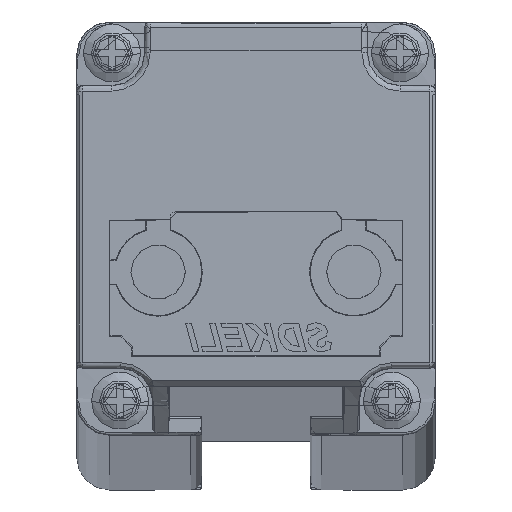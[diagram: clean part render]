
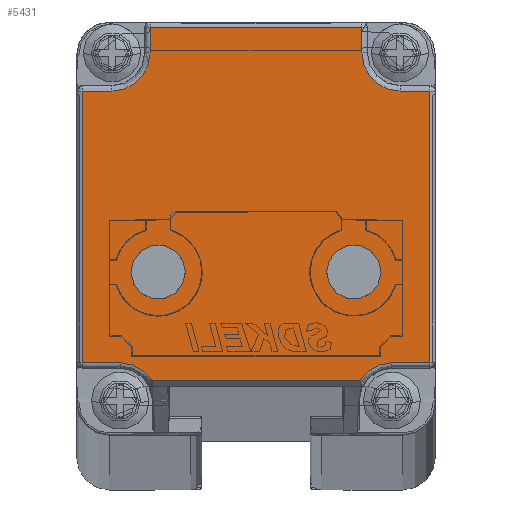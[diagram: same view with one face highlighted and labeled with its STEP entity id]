
A CAD part, top view. The second image highlights one B-rep face of the part: STEP entity #5431.
In plain terms, the highlighted planar face has unit normal (0, 0, 1).
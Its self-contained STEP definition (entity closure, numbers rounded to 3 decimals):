
#2483=CARTESIAN_POINT('',(4.,3.152,970.));
#2484=DIRECTION('',(0.,0.,1.));
#2485=DIRECTION('',(0.849,0.528,0.));
#2486=AXIS2_PLACEMENT_3D('',#2483,#2484,#2485);
#2488=CARTESIAN_POINT('',(3.25,35.15,970.));
#2489=DIRECTION('',(0.,0.,1.));
#2490=DIRECTION('',(0.,-1.,0.));
#2491=AXIS2_PLACEMENT_3D('',#2488,#2489,#2490);
#2493=CARTESIAN_POINT('',(29.75,35.15,970.));
#2494=DIRECTION('',(0.,0.,1.));
#2495=DIRECTION('',(-1.,0.,0.));
#2496=AXIS2_PLACEMENT_3D('',#2493,#2494,#2495);
#2498=CARTESIAN_POINT('',(29.,3.152,970.));
#2499=DIRECTION('',(0.,0.,1.));
#2500=DIRECTION('',(0.,1.,0.));
#2501=AXIS2_PLACEMENT_3D('',#2498,#2499,#2500);
#2503=CARTESIAN_POINT('',(7.5,15.002,970.));
#2504=DIRECTION('',(0.,0.,1.));
#2505=DIRECTION('',(1.,0.007,0.));
#2506=AXIS2_PLACEMENT_3D('',#2503,#2504,#2505);
#2508=CARTESIAN_POINT('',(7.5,15.002,970.));
#2509=DIRECTION('',(0.,0.,1.));
#2510=DIRECTION('',(-1.,-0.007,0.));
#2511=AXIS2_PLACEMENT_3D('',#2508,#2509,#2510);
#2513=CARTESIAN_POINT('',(25.5,15.,970.));
#2514=DIRECTION('',(0.,0.,1.));
#2515=DIRECTION('',(1.,-0.007,0.));
#2516=AXIS2_PLACEMENT_3D('',#2513,#2514,#2515);
#2518=CARTESIAN_POINT('',(25.5,15.,970.));
#2519=DIRECTION('',(0.,0.,1.));
#2520=DIRECTION('',(-1.,0.007,0.));
#2521=AXIS2_PLACEMENT_3D('',#2518,#2519,#2520);
#2551=DIRECTION('',(1.,-0.001,0.));
#2552=VECTOR('',#2551,19.056);
#2553=CARTESIAN_POINT('',(6.972,5.,970.));
#2554=LINE('',#2553,#2552);
#3086=DIRECTION('',(1.,0.,0.));
#3087=VECTOR('',#3086,3.5);
#3088=CARTESIAN_POINT('',(29.,6.652,970.));
#3089=LINE('',#3088,#3087);
#3113=DIRECTION('',(0.,1.,0.));
#3114=VECTOR('',#3113,24.998);
#3115=CARTESIAN_POINT('',(32.5,6.652,970.));
#3116=LINE('',#3115,#3114);
#3137=DIRECTION('',(-1.,0.,0.));
#3138=VECTOR('',#3137,2.75);
#3139=CARTESIAN_POINT('',(32.5,31.65,970.));
#3140=LINE('',#3139,#3138);
#3164=DIRECTION('',(0.,1.,0.));
#3165=VECTOR('',#3164,2.35);
#3166=CARTESIAN_POINT('',(26.25,35.15,970.));
#3167=LINE('',#3166,#3165);
#3203=DIRECTION('',(-1.,0.,0.));
#3204=VECTOR('',#3203,19.5);
#3205=CARTESIAN_POINT('',(26.25,37.5,970.));
#3206=LINE('',#3205,#3204);
#3227=DIRECTION('',(0.,-1.,0.));
#3228=VECTOR('',#3227,2.35);
#3229=CARTESIAN_POINT('',(6.75,37.5,970.));
#3230=LINE('',#3229,#3228);
#3254=DIRECTION('',(-1.,0.,0.));
#3255=VECTOR('',#3254,2.75);
#3256=CARTESIAN_POINT('',(3.25,31.65,970.));
#3257=LINE('',#3256,#3255);
#3327=DIRECTION('',(0.,-1.,0.));
#3328=VECTOR('',#3327,24.998);
#3329=CARTESIAN_POINT('',(0.5,31.65,970.));
#3330=LINE('',#3329,#3328);
#3370=DIRECTION('',(1.,0.,0.));
#3371=VECTOR('',#3370,3.5);
#3372=CARTESIAN_POINT('',(0.5,6.652,970.));
#3373=LINE('',#3372,#3371);
#4777=CARTESIAN_POINT('',(10.,15.018,970.));
#4778=VERTEX_POINT('',#4777);
#4779=CARTESIAN_POINT('',(5.,14.986,970.));
#4780=VERTEX_POINT('',#4779);
#4781=CARTESIAN_POINT('',(6.972,5.,970.));
#4782=CARTESIAN_POINT('',(4.,6.652,970.));
#4783=VERTEX_POINT('',#4781);
#4784=VERTEX_POINT('',#4782);
#4785=CARTESIAN_POINT('',(0.5,6.652,970.));
#4786=VERTEX_POINT('',#4785);
#4787=CARTESIAN_POINT('',(0.5,31.65,970.));
#4788=VERTEX_POINT('',#4787);
#4789=CARTESIAN_POINT('',(3.25,31.65,970.));
#4790=VERTEX_POINT('',#4789);
#4791=CARTESIAN_POINT('',(6.75,35.15,970.));
#4792=VERTEX_POINT('',#4791);
#4793=CARTESIAN_POINT('',(6.75,37.5,970.));
#4794=VERTEX_POINT('',#4793);
#4795=CARTESIAN_POINT('',(26.25,37.5,970.));
#4796=VERTEX_POINT('',#4795);
#4797=CARTESIAN_POINT('',(26.25,35.15,970.));
#4798=VERTEX_POINT('',#4797);
#4799=CARTESIAN_POINT('',(29.75,31.65,970.));
#4800=VERTEX_POINT('',#4799);
#4801=CARTESIAN_POINT('',(32.5,31.65,970.));
#4802=VERTEX_POINT('',#4801);
#4803=CARTESIAN_POINT('',(32.5,6.652,970.));
#4804=VERTEX_POINT('',#4803);
#4805=CARTESIAN_POINT('',(29.,6.652,970.));
#4806=VERTEX_POINT('',#4805);
#4807=CARTESIAN_POINT('',(26.028,5.,970.));
#4808=VERTEX_POINT('',#4807);
#4809=CARTESIAN_POINT('',(28.,14.984,970.));
#4810=CARTESIAN_POINT('',(23.,15.017,970.));
#4811=VERTEX_POINT('',#4809);
#4812=VERTEX_POINT('',#4810);
#5386=CARTESIAN_POINT('',(16.5,24.,970.));
#5387=DIRECTION('',(0.,0.,1.));
#5388=DIRECTION('',(1.,0.,0.));
#5389=AXIS2_PLACEMENT_3D('',#5386,#5387,#5388);
#5390=PLANE('',#5389);
#5392=ORIENTED_EDGE('',*,*,#5391,.T.);
#5394=ORIENTED_EDGE('',*,*,#5393,.F.);
#5396=ORIENTED_EDGE('',*,*,#5395,.F.);
#5398=ORIENTED_EDGE('',*,*,#5397,.F.);
#5400=ORIENTED_EDGE('',*,*,#5399,.T.);
#5402=ORIENTED_EDGE('',*,*,#5401,.F.);
#5404=ORIENTED_EDGE('',*,*,#5403,.F.);
#5406=ORIENTED_EDGE('',*,*,#5405,.F.);
#5408=ORIENTED_EDGE('',*,*,#5407,.T.);
#5410=ORIENTED_EDGE('',*,*,#5409,.F.);
#5412=ORIENTED_EDGE('',*,*,#5411,.F.);
#5414=ORIENTED_EDGE('',*,*,#5413,.F.);
#5416=ORIENTED_EDGE('',*,*,#5415,.T.);
#5418=ORIENTED_EDGE('',*,*,#5417,.F.);
#5419=EDGE_LOOP('',(#5392,#5394,#5396,#5398,#5400,#5402,#5404,#5406,#5408,#5410,
#5412,#5414,#5416,#5418));
#5420=FACE_OUTER_BOUND('',#5419,.F.);
#5421=ORIENTED_EDGE('',*,*,#5373,.T.);
#5422=ORIENTED_EDGE('',*,*,#5334,.T.);
#5423=EDGE_LOOP('',(#5421,#5422));
#5424=FACE_BOUND('',#5423,.F.);
#5426=ORIENTED_EDGE('',*,*,#5425,.T.);
#5428=ORIENTED_EDGE('',*,*,#5427,.T.);
#5429=EDGE_LOOP('',(#5426,#5428));
#5430=FACE_BOUND('',#5429,.F.);
#2487=CIRCLE('',#2486,3.5);
#2492=CIRCLE('',#2491,3.5);
#2497=CIRCLE('',#2496,3.5);
#2502=CIRCLE('',#2501,3.5);
#2507=CIRCLE('',#2506,2.5);
#2512=CIRCLE('',#2511,2.5);
#2517=CIRCLE('',#2516,2.5);
#2522=CIRCLE('',#2521,2.5);
#5334=EDGE_CURVE('',#4780,#4778,#2512,.T.);
#5373=EDGE_CURVE('',#4778,#4780,#2507,.T.);
#5391=EDGE_CURVE('',#4783,#4784,#2487,.T.);
#5393=EDGE_CURVE('',#4786,#4784,#3373,.T.);
#5395=EDGE_CURVE('',#4788,#4786,#3330,.T.);
#5397=EDGE_CURVE('',#4790,#4788,#3257,.T.);
#5399=EDGE_CURVE('',#4790,#4792,#2492,.T.);
#5401=EDGE_CURVE('',#4794,#4792,#3230,.T.);
#5403=EDGE_CURVE('',#4796,#4794,#3206,.T.);
#5405=EDGE_CURVE('',#4798,#4796,#3167,.T.);
#5407=EDGE_CURVE('',#4798,#4800,#2497,.T.);
#5409=EDGE_CURVE('',#4802,#4800,#3140,.T.);
#5411=EDGE_CURVE('',#4804,#4802,#3116,.T.);
#5413=EDGE_CURVE('',#4806,#4804,#3089,.T.);
#5415=EDGE_CURVE('',#4806,#4808,#2502,.T.);
#5417=EDGE_CURVE('',#4783,#4808,#2554,.T.);
#5425=EDGE_CURVE('',#4811,#4812,#2517,.T.);
#5427=EDGE_CURVE('',#4812,#4811,#2522,.T.);
#5431=ADVANCED_FACE('',(#5420,#5424,#5430),#5390,.T.);
